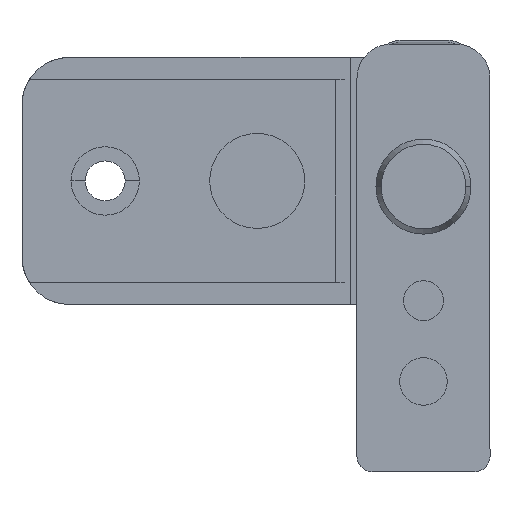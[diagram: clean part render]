
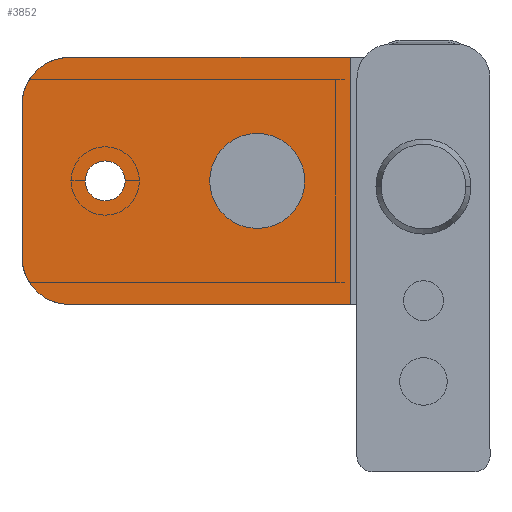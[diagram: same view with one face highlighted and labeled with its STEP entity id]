
A CAD part, front view. The second image highlights one B-rep face of the part: STEP entity #3852.
In plain terms, the highlighted planar face has unit normal (0, -1, 0).
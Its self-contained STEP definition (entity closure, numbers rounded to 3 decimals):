
#10 = CARTESIAN_POINT ( 'NONE',  ( -42.25, 647., 8.6 ) ) ;
#13 = CARTESIAN_POINT ( 'NONE',  ( -7.7, 647., 13.6 ) ) ;
#19 = CARTESIAN_POINT ( 'NONE',  ( -37.25, 647., -12.4 ) ) ;
#169 = CARTESIAN_POINT ( 'NONE',  ( -33.5, 647., 0.6 ) ) ;
#170 = DIRECTION ( 'NONE',  ( 0., 1., 0. ) ) ;
#171 = DIRECTION ( 'NONE',  ( -1., 0., 0. ) ) ;
#336 = CARTESIAN_POINT ( 'NONE',  ( -7.7, 647., -12.4 ) ) ;
#343 = CARTESIAN_POINT ( 'NONE',  ( -37.25, 647., -7.4 ) ) ;
#344 = DIRECTION ( 'NONE',  ( 0., -1., 0. ) ) ;
#345 = DIRECTION ( 'NONE',  ( -1., 0., 0. ) ) ;
#355 = CARTESIAN_POINT ( 'NONE',  ( -42.25, 647., 13.6 ) ) ;
#356 = DIRECTION ( 'NONE',  ( 1., 0., 0. ) ) ;
#361 = CARTESIAN_POINT ( 'NONE',  ( -33.5, 647., 0.6 ) ) ;
#362 = DIRECTION ( 'NONE',  ( 0., 1., 0. ) ) ;
#363 = DIRECTION ( 'NONE',  ( -1., 0., 0. ) ) ;
#364 = CARTESIAN_POINT ( 'NONE',  ( -42.25, 647., -12.4 ) ) ;
#365 = DIRECTION ( 'NONE',  ( 1., 0., 0. ) ) ;
#366 = CARTESIAN_POINT ( 'NONE',  ( -7.7, 647., 13.6 ) ) ;
#367 = DIRECTION ( 'NONE',  ( 0., 0., -1. ) ) ;
#368 = CARTESIAN_POINT ( 'NONE',  ( -37.25, 647., 8.6 ) ) ;
#369 = DIRECTION ( 'NONE',  ( 0., -1., 0. ) ) ;
#370 = DIRECTION ( 'NONE',  ( -1., 0., 0. ) ) ;
#376 = EDGE_CURVE ( 'NONE', #1210, #4598, #2322, .T. ) ;
#381 = EDGE_CURVE ( 'NONE', #1202, #4592, #2314, .T. ) ;
#384 = EDGE_CURVE ( 'NONE', #1120, #1309, #2307, .T. ) ;
#385 = EDGE_CURVE ( 'NONE', #4598, #1004, #2308, .T. ) ;
#386 = EDGE_CURVE ( 'NONE', #4592, #1004, #2305, .T. ) ;
#387 = EDGE_CURVE ( 'NONE', #1202, #4589, #1268, .T. ) ;
#965 = VECTOR ( 'NONE', #2787, 1000. ) ;
#966 = LINE ( 'NONE', #2786, #965 ) ;
#1004 = VERTEX_POINT ( 'NONE', #336 ) ;
#1022 = EDGE_CURVE ( 'NONE', #4589, #1210, #966, .T. ) ;
#1120 = VERTEX_POINT ( 'NONE', #3496 ) ;
#1196 = CARTESIAN_POINT ( 'NONE',  ( -37.25, 647., 13.6 ) ) ;
#1202 = VERTEX_POINT ( 'NONE', #1196 ) ;
#1210 = VERTEX_POINT ( 'NONE', #1714 ) ;
#1268 = CIRCLE ( 'NONE', #2556, 5. ) ;
#1309 = VERTEX_POINT ( 'NONE', #1778 ) ;
#1714 = CARTESIAN_POINT ( 'NONE',  ( -42.25, 647., -7.4 ) ) ;
#1778 = CARTESIAN_POINT ( 'NONE',  ( -31.4, 647., 0.6 ) ) ;
#1918 = CIRCLE ( 'NONE', #2597, 2.1 ) ;
#2003 = FACE_BOUND ( 'NONE', #4424, .T. ) ;
#2004 = FACE_OUTER_BOUND ( 'NONE', #4423, .T. ) ;
#2304 = VECTOR ( 'NONE', #367, 1000. ) ;
#2305 = LINE ( 'NONE', #366, #2304 ) ;
#2306 = VECTOR ( 'NONE', #365, 1000. ) ;
#2307 = CIRCLE ( 'NONE', #2555, 2.1 ) ;
#2308 = LINE ( 'NONE', #364, #2306 ) ;
#2313 = VECTOR ( 'NONE', #356, 1000. ) ;
#2314 = LINE ( 'NONE', #355, #2313 ) ;
#2322 = CIRCLE ( 'NONE', #2553, 5. ) ;
#2438 = ORIENTED_EDGE ( 'NONE', *, *, #387, .T. ) ;
#2439 = ORIENTED_EDGE ( 'NONE', *, *, #381, .F. ) ;
#2440 = ORIENTED_EDGE ( 'NONE', *, *, #386, .F. ) ;
#2441 = ORIENTED_EDGE ( 'NONE', *, *, #385, .T. ) ;
#2442 = ORIENTED_EDGE ( 'NONE', *, *, #376, .T. ) ;
#2443 = ORIENTED_EDGE ( 'NONE', *, *, #1022, .T. ) ;
#2444 = ORIENTED_EDGE ( 'NONE', *, *, #2539, .T. ) ;
#2445 = ORIENTED_EDGE ( 'NONE', *, *, #384, .T. ) ;
#2539 = EDGE_CURVE ( 'NONE', #1309, #1120, #1918, .T. ) ;
#2553 = AXIS2_PLACEMENT_3D ( 'NONE', #343, #344, #345 ) ;
#2555 = AXIS2_PLACEMENT_3D ( 'NONE', #361, #362, #363 ) ;
#2556 = AXIS2_PLACEMENT_3D ( 'NONE', #368, #369, #370 ) ;
#2597 = AXIS2_PLACEMENT_3D ( 'NONE', #169, #170, #171 ) ;
#2615 = AXIS2_PLACEMENT_3D ( 'NONE', #3996, #3997, #3998 ) ;
#2786 = CARTESIAN_POINT ( 'NONE',  ( -42.25, 647., 13.6 ) ) ;
#2787 = DIRECTION ( 'NONE',  ( 0., 0., -1. ) ) ;
#3496 = CARTESIAN_POINT ( 'NONE',  ( -35.6, 647., 0.6 ) ) ;
#3852 = ADVANCED_FACE ( 'NONE', ( #2003, #2004 ), #3995, .F. ) ;
#3995 = PLANE ( 'NONE',  #2615 ) ;
#3996 = CARTESIAN_POINT ( 'NONE',  ( -42.25, 647., 13.6 ) ) ;
#3997 = DIRECTION ( 'NONE',  ( 0., 1., 0. ) ) ;
#3998 = DIRECTION ( 'NONE',  ( -1., 0., 0. ) ) ;
#4423 = EDGE_LOOP ( 'NONE', ( #2443, #2442, #2441, #2440, #2439, #2438 ) ) ;
#4424 = EDGE_LOOP ( 'NONE', ( #2445, #2444 ) ) ;
#4589 = VERTEX_POINT ( 'NONE', #10 ) ;
#4592 = VERTEX_POINT ( 'NONE', #13 ) ;
#4598 = VERTEX_POINT ( 'NONE', #19 ) ;
